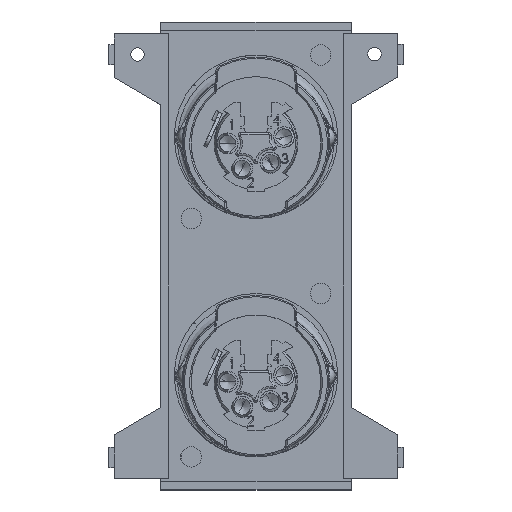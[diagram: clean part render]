
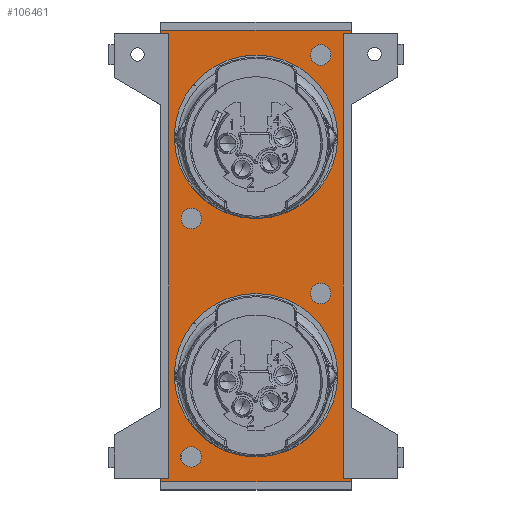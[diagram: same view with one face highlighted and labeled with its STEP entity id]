
A CAD part, top view. The second image highlights one B-rep face of the part: STEP entity #106461.
In plain terms, the highlighted planar face has unit normal (0, 0, 1).
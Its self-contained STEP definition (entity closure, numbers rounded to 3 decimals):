
#106013 = VERTEX_POINT('',#106014);
#106014 = CARTESIAN_POINT('',(-4.507,-9.906,1.2));
#106020 = EDGE_CURVE('',#106013,#106013,#106021,.T.);
#106021 = CIRCLE('',#106022,1.);
#106022 = AXIS2_PLACEMENT_3D('',#106023,#106024,#106025);
#106023 = CARTESIAN_POINT('',(-5.507,-9.906,1.2));
#106024 = DIRECTION('',(0.,0.,-1.));
#106025 = DIRECTION('',(1.,0.,0.));
#106038 = VERTEX_POINT('',#106039);
#106039 = CARTESIAN_POINT('',(30.485,-10.093,1.2));
#106045 = EDGE_CURVE('',#106038,#106038,#106046,.T.);
#106046 = CIRCLE('',#106047,1.);
#106047 = AXIS2_PLACEMENT_3D('',#106048,#106049,#106050);
#106048 = CARTESIAN_POINT('',(29.485,-10.093,1.2));
#106049 = DIRECTION('',(0.,0.,-1.));
#106050 = DIRECTION('',(1.,0.,0.));
#106063 = VERTEX_POINT('',#106064);
#106064 = CARTESIAN_POINT('',(-5.5,0.,1.2));
#106070 = EDGE_CURVE('',#106063,#106063,#106071,.T.);
#106071 = CIRCLE('',#106072,12.);
#106072 = AXIS2_PLACEMENT_3D('',#106073,#106074,#106075);
#106073 = CARTESIAN_POINT('',(-17.5,0.,1.2));
#106074 = DIRECTION('',(0.,0.,-1.));
#106075 = DIRECTION('',(1.,0.,0.));
#106088 = VERTEX_POINT('',#106089);
#106089 = CARTESIAN_POINT('',(-28.5,9.5,1.2));
#106095 = EDGE_CURVE('',#106088,#106088,#106096,.T.);
#106096 = CIRCLE('',#106097,1.);
#106097 = AXIS2_PLACEMENT_3D('',#106098,#106099,#106100);
#106098 = CARTESIAN_POINT('',(-29.5,9.5,1.2));
#106099 = DIRECTION('',(0.,0.,-1.));
#106100 = DIRECTION('',(1.,0.,0.));
#106113 = VERTEX_POINT('',#106114);
#106114 = CARTESIAN_POINT('',(29.5,0.,1.2));
#106120 = EDGE_CURVE('',#106113,#106113,#106121,.T.);
#106121 = CIRCLE('',#106122,12.);
#106122 = AXIS2_PLACEMENT_3D('',#106123,#106124,#106125);
#106123 = CARTESIAN_POINT('',(17.5,0.,1.2));
#106124 = DIRECTION('',(0.,0.,-1.));
#106125 = DIRECTION('',(1.,0.,0.));
#106138 = VERTEX_POINT('',#106139);
#106139 = CARTESIAN_POINT('',(6.5,9.5,1.2));
#106145 = EDGE_CURVE('',#106138,#106138,#106146,.T.);
#106146 = CIRCLE('',#106147,1.);
#106147 = AXIS2_PLACEMENT_3D('',#106148,#106149,#106150);
#106148 = CARTESIAN_POINT('',(5.5,9.5,1.2));
#106149 = DIRECTION('',(0.,0.,-1.));
#106150 = DIRECTION('',(1.,0.,0.));
#106211 = VERTEX_POINT('',#106212);
#106212 = CARTESIAN_POINT('',(-33.15,14.,1.2));
#106218 = EDGE_CURVE('',#106219,#106211,#106221,.T.);
#106219 = VERTEX_POINT('',#106220);
#106220 = CARTESIAN_POINT('',(-32.65,14.,1.2));
#106221 = LINE('',#106222,#106223);
#106222 = CARTESIAN_POINT('',(34.35,14.,1.2));
#106223 = VECTOR('',#106224,1.);
#106224 = DIRECTION('',(-1.,0.,0.));
#106275 = VERTEX_POINT('',#106276);
#106276 = CARTESIAN_POINT('',(32.65,14.,1.2));
#106282 = EDGE_CURVE('',#106283,#106275,#106285,.T.);
#106283 = VERTEX_POINT('',#106284);
#106284 = CARTESIAN_POINT('',(33.15,14.,1.2));
#106285 = LINE('',#106286,#106287);
#106286 = CARTESIAN_POINT('',(34.35,14.,1.2));
#106287 = VECTOR('',#106288,1.);
#106288 = DIRECTION('',(-1.,0.,0.));
#106331 = VERTEX_POINT('',#106332);
#106332 = CARTESIAN_POINT('',(33.15,-14.,1.2));
#106338 = EDGE_CURVE('',#106339,#106331,#106341,.T.);
#106339 = VERTEX_POINT('',#106340);
#106340 = CARTESIAN_POINT('',(32.65,-14.,1.2));
#106341 = LINE('',#106342,#106343);
#106342 = CARTESIAN_POINT('',(-34.35,-14.,1.2));
#106343 = VECTOR('',#106344,1.);
#106344 = DIRECTION('',(1.,0.,0.));
#106411 = VERTEX_POINT('',#106412);
#106412 = CARTESIAN_POINT('',(-32.65,-14.,1.2));
#106418 = EDGE_CURVE('',#106419,#106411,#106421,.T.);
#106419 = VERTEX_POINT('',#106420);
#106420 = CARTESIAN_POINT('',(-33.15,-14.,1.2));
#106421 = LINE('',#106422,#106423);
#106422 = CARTESIAN_POINT('',(-34.35,-14.,1.2));
#106423 = VECTOR('',#106424,1.);
#106424 = DIRECTION('',(1.,0.,0.));
#106461 = ADVANCED_FACE('',(#106462,#106524,#106527,#106530,#106533,
    #106536,#106539),#106542,.T.);
#106462 = FACE_BOUND('',#106463,.T.);
#106463 = EDGE_LOOP('',(#106464,#106470,#106471,#106479,#106487,#106493,
    #106494,#106500,#106501,#106509,#106517,#106523));
#106464 = ORIENTED_EDGE('',*,*,#106465,.F.);
#106465 = EDGE_CURVE('',#106419,#106211,#106466,.T.);
#106466 = LINE('',#106467,#106468);
#106467 = CARTESIAN_POINT('',(-33.15,-14.,1.2));
#106468 = VECTOR('',#106469,1.);
#106469 = DIRECTION('',(0.,1.,0.));
#106470 = ORIENTED_EDGE('',*,*,#106418,.T.);
#106471 = ORIENTED_EDGE('',*,*,#106472,.F.);
#106472 = EDGE_CURVE('',#106473,#106411,#106475,.T.);
#106473 = VERTEX_POINT('',#106474);
#106474 = CARTESIAN_POINT('',(-32.65,-12.8,1.2));
#106475 = LINE('',#106476,#106477);
#106476 = CARTESIAN_POINT('',(-32.65,-12.8,1.2));
#106477 = VECTOR('',#106478,1.);
#106478 = DIRECTION('',(0.,-1.,0.));
#106479 = ORIENTED_EDGE('',*,*,#106480,.F.);
#106480 = EDGE_CURVE('',#106481,#106473,#106483,.T.);
#106481 = VERTEX_POINT('',#106482);
#106482 = CARTESIAN_POINT('',(32.65,-12.8,1.2));
#106483 = LINE('',#106484,#106485);
#106484 = CARTESIAN_POINT('',(32.65,-12.8,1.2));
#106485 = VECTOR('',#106486,1.);
#106486 = DIRECTION('',(-1.,0.,0.));
#106487 = ORIENTED_EDGE('',*,*,#106488,.F.);
#106488 = EDGE_CURVE('',#106339,#106481,#106489,.T.);
#106489 = LINE('',#106490,#106491);
#106490 = CARTESIAN_POINT('',(32.65,-14.,1.2));
#106491 = VECTOR('',#106492,1.);
#106492 = DIRECTION('',(0.,1.,0.));
#106493 = ORIENTED_EDGE('',*,*,#106338,.T.);
#106494 = ORIENTED_EDGE('',*,*,#106495,.F.);
#106495 = EDGE_CURVE('',#106283,#106331,#106496,.T.);
#106496 = LINE('',#106497,#106498);
#106497 = CARTESIAN_POINT('',(33.15,14.,1.2));
#106498 = VECTOR('',#106499,1.);
#106499 = DIRECTION('',(0.,-1.,0.));
#106500 = ORIENTED_EDGE('',*,*,#106282,.T.);
#106501 = ORIENTED_EDGE('',*,*,#106502,.F.);
#106502 = EDGE_CURVE('',#106503,#106275,#106505,.T.);
#106503 = VERTEX_POINT('',#106504);
#106504 = CARTESIAN_POINT('',(32.65,12.8,1.2));
#106505 = LINE('',#106506,#106507);
#106506 = CARTESIAN_POINT('',(32.65,12.8,1.2));
#106507 = VECTOR('',#106508,1.);
#106508 = DIRECTION('',(0.,1.,0.));
#106509 = ORIENTED_EDGE('',*,*,#106510,.F.);
#106510 = EDGE_CURVE('',#106511,#106503,#106513,.T.);
#106511 = VERTEX_POINT('',#106512);
#106512 = CARTESIAN_POINT('',(-32.65,12.8,1.2));
#106513 = LINE('',#106514,#106515);
#106514 = CARTESIAN_POINT('',(-32.65,12.8,1.2));
#106515 = VECTOR('',#106516,1.);
#106516 = DIRECTION('',(1.,0.,0.));
#106517 = ORIENTED_EDGE('',*,*,#106518,.F.);
#106518 = EDGE_CURVE('',#106219,#106511,#106519,.T.);
#106519 = LINE('',#106520,#106521);
#106520 = CARTESIAN_POINT('',(-32.65,14.,1.2));
#106521 = VECTOR('',#106522,1.);
#106522 = DIRECTION('',(0.,-1.,0.));
#106523 = ORIENTED_EDGE('',*,*,#106218,.T.);
#106524 = FACE_BOUND('',#106525,.T.);
#106525 = EDGE_LOOP('',(#106526));
#106526 = ORIENTED_EDGE('',*,*,#106020,.T.);
#106527 = FACE_BOUND('',#106528,.T.);
#106528 = EDGE_LOOP('',(#106529));
#106529 = ORIENTED_EDGE('',*,*,#106045,.T.);
#106530 = FACE_BOUND('',#106531,.T.);
#106531 = EDGE_LOOP('',(#106532));
#106532 = ORIENTED_EDGE('',*,*,#106070,.T.);
#106533 = FACE_BOUND('',#106534,.T.);
#106534 = EDGE_LOOP('',(#106535));
#106535 = ORIENTED_EDGE('',*,*,#106095,.T.);
#106536 = FACE_BOUND('',#106537,.T.);
#106537 = EDGE_LOOP('',(#106538));
#106538 = ORIENTED_EDGE('',*,*,#106120,.T.);
#106539 = FACE_BOUND('',#106540,.T.);
#106540 = EDGE_LOOP('',(#106541));
#106541 = ORIENTED_EDGE('',*,*,#106145,.T.);
#106542 = PLANE('',#106543);
#106543 = AXIS2_PLACEMENT_3D('',#106544,#106545,#106546);
#106544 = CARTESIAN_POINT('',(0.,0.,1.2));
#106545 = DIRECTION('',(0.,0.,1.));
#106546 = DIRECTION('',(1.,0.,-0.));
